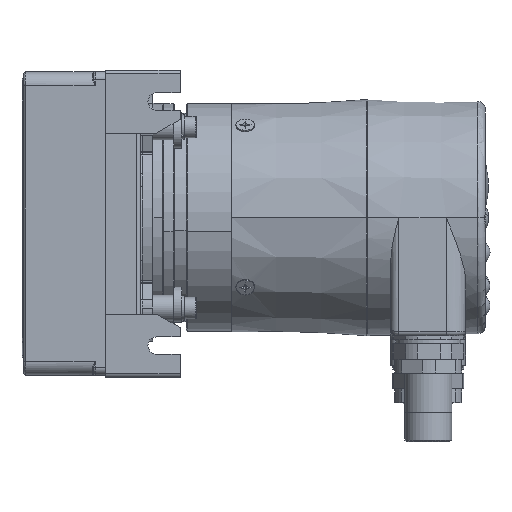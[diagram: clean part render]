
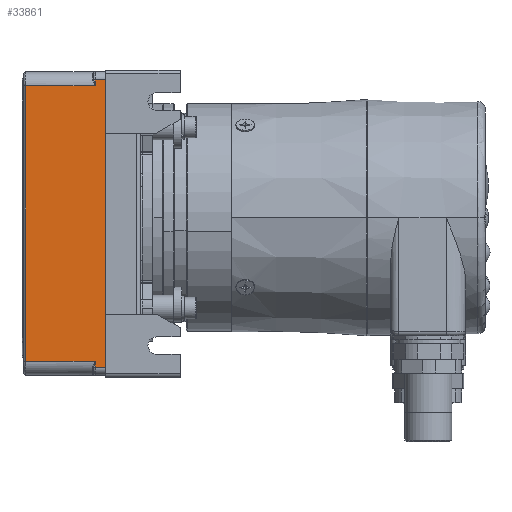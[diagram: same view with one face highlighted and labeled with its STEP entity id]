
A CAD part, front view. The second image highlights one B-rep face of the part: STEP entity #33861.
In plain terms, the highlighted planar face has unit normal (0, -1, 0).
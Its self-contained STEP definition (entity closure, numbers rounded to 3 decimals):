
#9871 = VERTEX_POINT ( 'NONE', #52952 ) ;
#9895 = EDGE_CURVE ( 'NONE', #93032, #144850, #158387, .T. ) ;
#11567 = VERTEX_POINT ( 'NONE', #136484 ) ;
#16506 = LINE ( 'NONE', #126338, #140425 ) ;
#18443 = CARTESIAN_POINT ( 'NONE',  ( -31.2, -37., 37. ) ) ;
#20982 = EDGE_CURVE ( 'NONE', #11567, #9871, #16506, .T. ) ;
#21684 = CARTESIAN_POINT ( 'NONE',  ( -10., -37., -38. ) ) ;
#23085 = VERTEX_POINT ( 'NONE', #21684 ) ;
#24262 = CARTESIAN_POINT ( 'NONE',  ( -10., -37., 37. ) ) ;
#25291 = ORIENTED_EDGE ( 'NONE', *, *, #156847, .F. ) ;
#28283 = ORIENTED_EDGE ( 'NONE', *, *, #20982, .F. ) ;
#28913 = LINE ( 'NONE', #133452, #127620 ) ;
#29788 = DIRECTION ( 'NONE',  ( 0., 0., 1. ) ) ;
#30958 = DIRECTION ( 'NONE',  ( -1., 0., 0. ) ) ;
#33092 = DIRECTION ( 'NONE',  ( 0., 0., 1. ) ) ;
#33861 = ADVANCED_FACE ( 'NONE', ( #111065 ), #55359, .F. ) ;
#36784 = DIRECTION ( 'NONE',  ( 0., 0., 1. ) ) ;
#38816 = ORIENTED_EDGE ( 'NONE', *, *, #77519, .F. ) ;
#40664 = CARTESIAN_POINT ( 'NONE',  ( -12.6, -37., 33.5 ) ) ;
#48055 = EDGE_LOOP ( 'NONE', ( #25291, #66861, #138246, #147081, #129147, #38816, #89781, #28283 ) ) ;
#51579 = CARTESIAN_POINT ( 'NONE',  ( -12.6, -37., -38. ) ) ;
#51733 = CARTESIAN_POINT ( 'NONE',  ( -31.2, -37., 35. ) ) ;
#52952 = CARTESIAN_POINT ( 'NONE',  ( -30.3, -37., -36.5 ) ) ;
#54007 = DIRECTION ( 'NONE',  ( 1., 0., 0. ) ) ;
#55359 = PLANE ( 'NONE',  #134401 ) ;
#55972 = LINE ( 'NONE', #103912, #150633 ) ;
#60448 = CARTESIAN_POINT ( 'NONE',  ( -30.3, -37., 33.5 ) ) ;
#61535 = EDGE_CURVE ( 'NONE', #144850, #23085, #86770, .T. ) ;
#65195 = VECTOR ( 'NONE', #36784, 1000. ) ;
#65983 = VECTOR ( 'NONE', #33092, 1000. ) ;
#66861 = ORIENTED_EDGE ( 'NONE', *, *, #70453, .F. ) ;
#69877 = LINE ( 'NONE', #102937, #98803 ) ;
#70453 = EDGE_CURVE ( 'NONE', #23085, #92552, #69877, .T. ) ;
#74073 = DIRECTION ( 'NONE',  ( 0., 0., -1. ) ) ;
#77519 = EDGE_CURVE ( 'NONE', #80646, #92640, #28913, .T. ) ;
#78103 = DIRECTION ( 'NONE',  ( -1., 0., 0. ) ) ;
#80646 = VERTEX_POINT ( 'NONE', #60448 ) ;
#86770 = LINE ( 'NONE', #24262, #115750 ) ;
#89781 = ORIENTED_EDGE ( 'NONE', *, *, #106141, .F. ) ;
#92552 = VERTEX_POINT ( 'NONE', #51579 ) ;
#92640 = VERTEX_POINT ( 'NONE', #40664 ) ;
#93032 = VERTEX_POINT ( 'NONE', #145993 ) ;
#98038 = LINE ( 'NONE', #98414, #65195 ) ;
#98414 = CARTESIAN_POINT ( 'NONE',  ( -12.6, -37., 37. ) ) ;
#98803 = VECTOR ( 'NONE', #78103, 1000. ) ;
#102937 = CARTESIAN_POINT ( 'NONE',  ( -31.2, -37., -38. ) ) ;
#103912 = CARTESIAN_POINT ( 'NONE',  ( -30.3, -37., 35. ) ) ;
#105060 = DIRECTION ( 'NONE',  ( 0., 1., 0. ) ) ;
#106141 = EDGE_CURVE ( 'NONE', #9871, #80646, #55972, .T. ) ;
#111065 = FACE_OUTER_BOUND ( 'NONE', #48055, .T. ) ;
#115750 = VECTOR ( 'NONE', #74073, 1000. ) ;
#121655 = VECTOR ( 'NONE', #54007, 1000. ) ;
#123674 = CARTESIAN_POINT ( 'NONE',  ( -10., -37., 35. ) ) ;
#126338 = CARTESIAN_POINT ( 'NONE',  ( -31.2, -37., -36.5 ) ) ;
#127620 = VECTOR ( 'NONE', #157215, 1000. ) ;
#129147 = ORIENTED_EDGE ( 'NONE', *, *, #142916, .F. ) ;
#131717 = LINE ( 'NONE', #156386, #65983 ) ;
#133452 = CARTESIAN_POINT ( 'NONE',  ( -31.2, -37., 33.5 ) ) ;
#134401 = AXIS2_PLACEMENT_3D ( 'NONE', #18443, #105060, #30958 ) ;
#136484 = CARTESIAN_POINT ( 'NONE',  ( -12.6, -37., -36.5 ) ) ;
#138246 = ORIENTED_EDGE ( 'NONE', *, *, #61535, .F. ) ;
#140425 = VECTOR ( 'NONE', #151154, 1000. ) ;
#142916 = EDGE_CURVE ( 'NONE', #92640, #93032, #98038, .T. ) ;
#144850 = VERTEX_POINT ( 'NONE', #123674 ) ;
#145993 = CARTESIAN_POINT ( 'NONE',  ( -12.6, -37., 35. ) ) ;
#147081 = ORIENTED_EDGE ( 'NONE', *, *, #9895, .F. ) ;
#150633 = VECTOR ( 'NONE', #29788, 1000. ) ;
#151154 = DIRECTION ( 'NONE',  ( -1., 0., 0. ) ) ;
#156386 = CARTESIAN_POINT ( 'NONE',  ( -12.6, -37., 37. ) ) ;
#156847 = EDGE_CURVE ( 'NONE', #92552, #11567, #131717, .T. ) ;
#157215 = DIRECTION ( 'NONE',  ( 1., 0., 0. ) ) ;
#158387 = LINE ( 'NONE', #51733, #121655 ) ;
